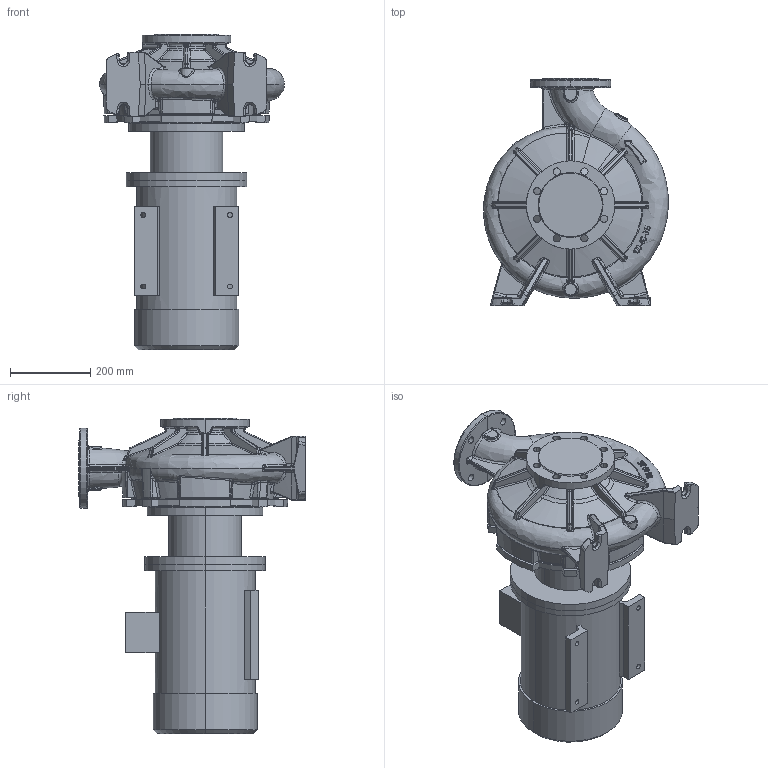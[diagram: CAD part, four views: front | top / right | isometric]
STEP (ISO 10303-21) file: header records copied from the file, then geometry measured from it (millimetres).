
FILE_DESCRIPTION (( 'STEP AP203' ), '1' );
FILE_NAME ('KRM100-80-315-4-11.STEP', '2026-08-12T12:57:31', ( '' ), ( '' ), 'SwSTEP 2.0', 'SolidWorks 2016', '' );
FILE_SCHEMA (( 'CONFIG_CONTROL_DESIGN' ));
Length unit declared in the file: millimetre
Products named in the file (1): KRM100-80-315-4-11
Bounding box: 459.7 x 565 x 786.3 mm (x, y, z)
Volume: 53452215.9 mm3; surface area: 2042555.3 mm2
Topology: 12 solids, 12 shells, 1515 faces, 3641 edges, 2154 vertices
Faces by surface type: bspline 708, cylinder 310, plane 296, torus 110, cone 76, sphere 15
Entity records: 103141 total; most frequent: CARTESIAN_POINT 73522, ORIENTED_EDGE 7206, DIRECTION 4725, EDGE_CURVE 3603, VERTEX_POINT 2152, AXIS2_PLACEMENT_3D 1932, EDGE_LOOP 1587, ADVANCED_FACE 1515
